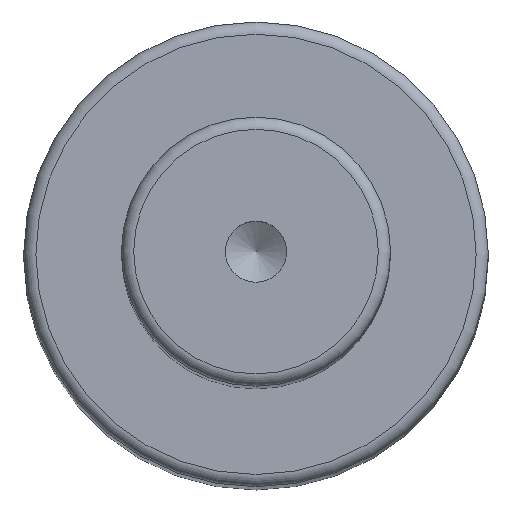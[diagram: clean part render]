
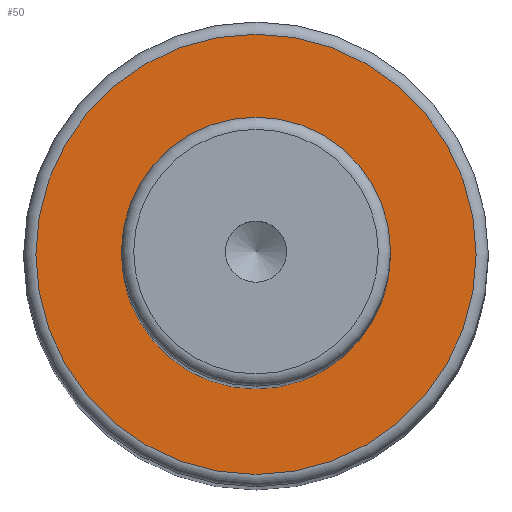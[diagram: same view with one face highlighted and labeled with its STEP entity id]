
A CAD part, top view. The second image highlights one B-rep face of the part: STEP entity #50.
In plain terms, the highlighted planar face has unit normal (0, 0, 1).
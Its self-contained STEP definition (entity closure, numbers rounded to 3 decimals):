
#40=PLANE('',#179);
#50=ADVANCED_FACE('',(#72,#73),#40,.F.);
#72=FACE_BOUND('',#96,.T.);
#73=FACE_BOUND('',#97,.T.);
#96=EDGE_LOOP('',(#118));
#97=EDGE_LOOP('',(#119));
#118=ORIENTED_EDGE('',*,*,#149,.F.);
#119=ORIENTED_EDGE('',*,*,#148,.T.);
#135=VERTEX_POINT('',#256);
#136=VERTEX_POINT('',#259);
#148=EDGE_CURVE('',#135,#135,#159,.T.);
#149=EDGE_CURVE('',#136,#136,#160,.T.);
#159=CIRCLE('',#176,11.);
#160=CIRCLE('',#178,18.);
#176=AXIS2_PLACEMENT_3D('',#255,#213,#214);
#178=AXIS2_PLACEMENT_3D('',#258,#217,#218);
#179=AXIS2_PLACEMENT_3D('',#260,#219,#220);
#213=DIRECTION('',(0.,0.,-1.));
#214=DIRECTION('',(-1.,0.,0.));
#217=DIRECTION('',(0.,0.,-1.));
#218=DIRECTION('',(-1.,0.,0.));
#219=DIRECTION('',(0.,0.,-1.));
#220=DIRECTION('',(-1.,0.,0.));
#255=CARTESIAN_POINT('',(0.,0.,154.));
#256=CARTESIAN_POINT('',(-11.,0.,154.));
#258=CARTESIAN_POINT('',(0.,0.,154.));
#259=CARTESIAN_POINT('',(-18.,0.,154.));
#260=CARTESIAN_POINT('',(11.,0.,154.));
